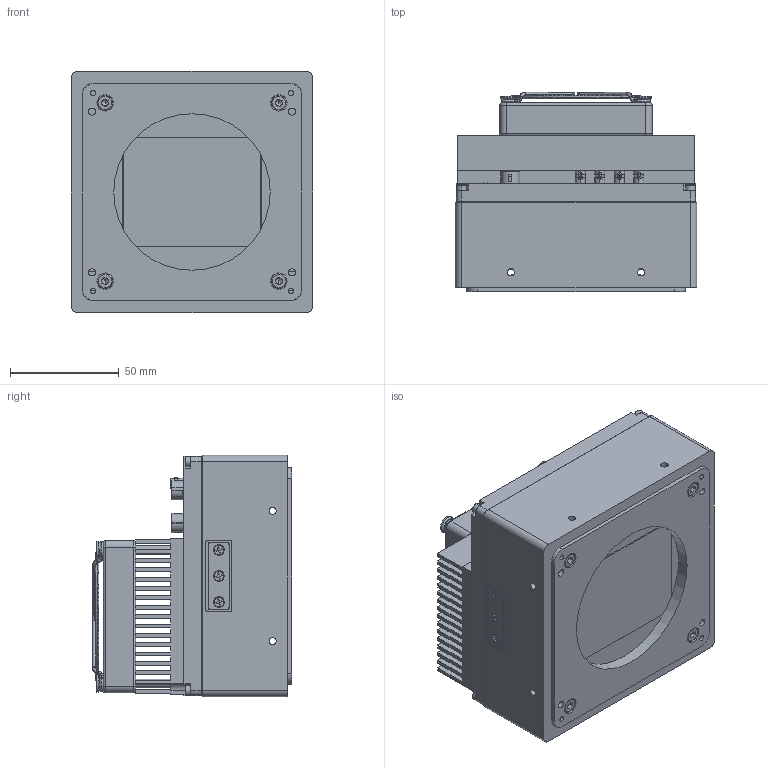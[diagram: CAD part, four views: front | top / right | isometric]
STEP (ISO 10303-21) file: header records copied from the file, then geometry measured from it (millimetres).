
FILE_DESCRIPTION (( 'STEP AP203' ), '1' );
FILE_NAME ('TTS127MCXP-total-20211013.STEP', '2022-05-10T08:54:24', ( '123' ), ( ' ' ), 'SwSTEP 2.0', 'SolidWorks 2017', '' );
FILE_SCHEMA (( 'CONFIG_CONTROL_DESIGN' ));
Length unit declared in the file: millimetre
Products named in the file (1): TTS127MCXP-total-20211013
Bounding box: 111 x 91.57 x 111 mm (x, y, z)
Surface area: 135064.3 mm2 (no closed solid volume)
Topology: 0 solids, 98 shells, 1031 faces, 3920 edges, 2911 vertices
Faces by surface type: plane 443, cylinder 369, bspline 100, cone 85, torus 24, sphere 10
Entity records: 49701 total; most frequent: CARTESIAN_POINT 18526, DIRECTION 6004, ORIENTED_EDGE 5975, EDGE_CURVE 3883, VERTEX_POINT 2900, VECTOR 2164, LINE 2164, AXIS2_PLACEMENT_3D 1920
